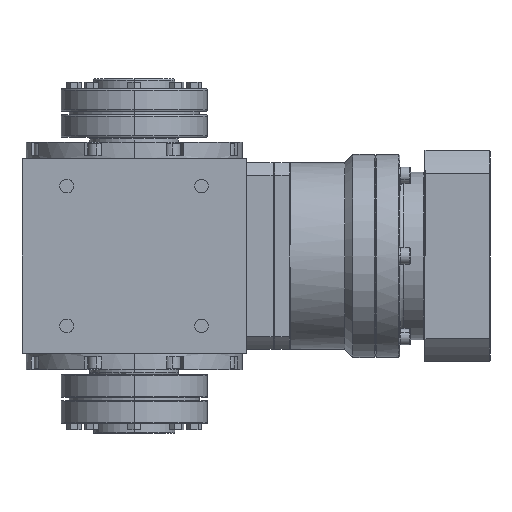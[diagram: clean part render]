
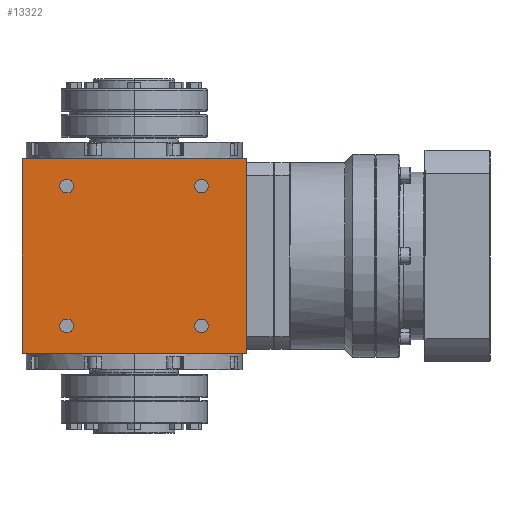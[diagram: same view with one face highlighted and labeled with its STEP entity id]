
A CAD part, left-side view. The second image highlights one B-rep face of the part: STEP entity #13322.
In plain terms, the highlighted planar face has unit normal (-1, 0, 0).
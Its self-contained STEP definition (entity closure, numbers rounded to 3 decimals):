
#5 = EDGE_LOOP ( 'NONE', ( #12496, #20094, #12325, #8017 ) ) ;
#17 = AXIS2_PLACEMENT_3D ( 'NONE', #16425, #13481, #1799 ) ;
#222 = EDGE_CURVE ( 'NONE', #30386, #10881, #6542, .T. ) ;
#235 = CARTESIAN_POINT ( 'NONE',  ( -69., -37.3, 43. ) ) ;
#304 = LINE ( 'NONE', #14953, #21759 ) ;
#317 = AXIS2_PLACEMENT_3D ( 'NONE', #16256, #4375, #25610 ) ;
#333 = FACE_OUTER_BOUND ( 'NONE', #5, .T. ) ;
#1705 = AXIS2_PLACEMENT_3D ( 'NONE', #15162, #6785, #21217 ) ;
#1799 = DIRECTION ( 'NONE',  ( 0., -1., 0. ) ) ;
#2563 = DIRECTION ( 'NONE',  ( 1., 0., 0. ) ) ;
#2656 = CARTESIAN_POINT ( 'NONE',  ( -69., 41.5, 43. ) ) ;
#3011 = LINE ( 'NONE', #26611, #12764 ) ;
#3183 = EDGE_CURVE ( 'NONE', #16970, #14932, #304, .T. ) ;
#3285 = FACE_BOUND ( 'NONE', #37566, .T. ) ;
#3544 = EDGE_CURVE ( 'NONE', #10881, #30386, #9240, .T. ) ;
#4375 = DIRECTION ( 'NONE',  ( 1., 0., 0. ) ) ;
#4450 = CARTESIAN_POINT ( 'NONE',  ( -69., -45.7, 43. ) ) ;
#4749 = DIRECTION ( 'NONE',  ( 0., -1., 0. ) ) ;
#5554 = DIRECTION ( 'NONE',  ( 1., 0., 0. ) ) ;
#5625 = CIRCLE ( 'NONE', #31779, 4.2 ) ;
#5699 = EDGE_LOOP ( 'NONE', ( #26540, #10550 ) ) ;
#5743 = CARTESIAN_POINT ( 'NONE',  ( -69., 41.5, -43. ) ) ;
#6091 = VERTEX_POINT ( 'NONE', #33113 ) ;
#6216 = FACE_BOUND ( 'NONE', #18913, .T. ) ;
#6542 = CIRCLE ( 'NONE', #317, 4.2 ) ;
#6785 = DIRECTION ( 'NONE',  ( -1., 0., 0. ) ) ;
#6910 = EDGE_CURVE ( 'NONE', #20321, #6091, #20396, .T. ) ;
#7246 = DIRECTION ( 'NONE',  ( 0., -1., 0. ) ) ;
#7362 = VECTOR ( 'NONE', #4749, 1000. ) ;
#7815 = CIRCLE ( 'NONE', #10293, 4.2 ) ;
#8017 = ORIENTED_EDGE ( 'NONE', *, *, #32305, .T. ) ;
#9240 = CIRCLE ( 'NONE', #17920, 4.2 ) ;
#9339 = FACE_BOUND ( 'NONE', #5699, .T. ) ;
#9524 = PLANE ( 'NONE',  #1705 ) ;
#9560 = DIRECTION ( 'NONE',  ( 0., -1., 0. ) ) ;
#9812 = CARTESIAN_POINT ( 'NONE',  ( -69., -69., -60. ) ) ;
#10293 = AXIS2_PLACEMENT_3D ( 'NONE', #19078, #30450, #9560 ) ;
#10550 = ORIENTED_EDGE ( 'NONE', *, *, #28093, .T. ) ;
#10638 = CARTESIAN_POINT ( 'NONE',  ( -69., 69., -60. ) ) ;
#10881 = VERTEX_POINT ( 'NONE', #18794 ) ;
#12232 = VERTEX_POINT ( 'NONE', #10638 ) ;
#12291 = DIRECTION ( 'NONE',  ( 0., 1., 0. ) ) ;
#12325 = ORIENTED_EDGE ( 'NONE', *, *, #20137, .T. ) ;
#12352 = CARTESIAN_POINT ( 'NONE',  ( -69., -37.3, -43. ) ) ;
#12373 = ORIENTED_EDGE ( 'NONE', *, *, #34958, .T. ) ;
#12440 = VECTOR ( 'NONE', #12291, 1000. ) ;
#12482 = CARTESIAN_POINT ( 'NONE',  ( -69., 69., 60. ) ) ;
#12496 = ORIENTED_EDGE ( 'NONE', *, *, #3183, .T. ) ;
#12498 = EDGE_CURVE ( 'NONE', #6091, #20321, #14107, .T. ) ;
#12764 = VECTOR ( 'NONE', #38530, 1000. ) ;
#13322 = ADVANCED_FACE ( 'NONE', ( #9339, #6216, #33527, #3285, #333 ), #9524, .T. ) ;
#13481 = DIRECTION ( 'NONE',  ( 1., 0., 0. ) ) ;
#13761 = CARTESIAN_POINT ( 'NONE',  ( -69., -69., 60. ) ) ;
#14028 = VERTEX_POINT ( 'NONE', #36220 ) ;
#14107 = CIRCLE ( 'NONE', #24120, 4.2 ) ;
#14319 = CIRCLE ( 'NONE', #17, 4.2 ) ;
#14932 = VERTEX_POINT ( 'NONE', #13761 ) ;
#14953 = CARTESIAN_POINT ( 'NONE',  ( -69., -69., -60. ) ) ;
#15162 = CARTESIAN_POINT ( 'NONE',  ( -69., 69., -60. ) ) ;
#15218 = DIRECTION ( 'NONE',  ( 0., -1., 0. ) ) ;
#15557 = VERTEX_POINT ( 'NONE', #20343 ) ;
#16031 = DIRECTION ( 'NONE',  ( 1., 0., 0. ) ) ;
#16137 = EDGE_CURVE ( 'NONE', #14932, #20156, #30467, .T. ) ;
#16256 = CARTESIAN_POINT ( 'NONE',  ( -69., 41.5, -43. ) ) ;
#16425 = CARTESIAN_POINT ( 'NONE',  ( -69., 41.5, 43. ) ) ;
#16556 = AXIS2_PLACEMENT_3D ( 'NONE', #33014, #2563, #15218 ) ;
#16712 = ORIENTED_EDGE ( 'NONE', *, *, #18819, .T. ) ;
#16970 = VERTEX_POINT ( 'NONE', #9812 ) ;
#17920 = AXIS2_PLACEMENT_3D ( 'NONE', #5743, #5554, #32667 ) ;
#18794 = CARTESIAN_POINT ( 'NONE',  ( -69., 37.3, -43. ) ) ;
#18819 = EDGE_CURVE ( 'NONE', #15557, #14028, #20439, .T. ) ;
#18913 = EDGE_LOOP ( 'NONE', ( #38108, #23992 ) ) ;
#19078 = CARTESIAN_POINT ( 'NONE',  ( -69., -41.5, 43. ) ) ;
#20094 = ORIENTED_EDGE ( 'NONE', *, *, #16137, .T. ) ;
#20137 = EDGE_CURVE ( 'NONE', #20156, #12232, #3011, .T. ) ;
#20156 = VERTEX_POINT ( 'NONE', #35597 ) ;
#20211 = CARTESIAN_POINT ( 'NONE',  ( -69., 45.7, -43. ) ) ;
#20321 = VERTEX_POINT ( 'NONE', #12352 ) ;
#20343 = CARTESIAN_POINT ( 'NONE',  ( -69., 37.3, 43. ) ) ;
#20396 = CIRCLE ( 'NONE', #16556, 4.2 ) ;
#20439 = CIRCLE ( 'NONE', #25442, 4.2 ) ;
#20979 = DIRECTION ( 'NONE',  ( 0., -1., 0. ) ) ;
#21217 = DIRECTION ( 'NONE',  ( 0., 0., 1. ) ) ;
#21232 = EDGE_LOOP ( 'NONE', ( #26937, #36087 ) ) ;
#21482 = CARTESIAN_POINT ( 'NONE',  ( -69., -41.5, -43. ) ) ;
#21759 = VECTOR ( 'NONE', #29409, 1000. ) ;
#22306 = CARTESIAN_POINT ( 'NONE',  ( -69., 69., -60. ) ) ;
#22668 = LINE ( 'NONE', #22306, #7362 ) ;
#23992 = ORIENTED_EDGE ( 'NONE', *, *, #6910, .T. ) ;
#24120 = AXIS2_PLACEMENT_3D ( 'NONE', #21482, #24821, #7246 ) ;
#24257 = EDGE_CURVE ( 'NONE', #37530, #36681, #7815, .T. ) ;
#24821 = DIRECTION ( 'NONE',  ( 1., 0., 0. ) ) ;
#25442 = AXIS2_PLACEMENT_3D ( 'NONE', #2656, #32915, #20979 ) ;
#25610 = DIRECTION ( 'NONE',  ( 0., -1., 0. ) ) ;
#26540 = ORIENTED_EDGE ( 'NONE', *, *, #24257, .T. ) ;
#26611 = CARTESIAN_POINT ( 'NONE',  ( -69., 69., -60. ) ) ;
#26937 = ORIENTED_EDGE ( 'NONE', *, *, #3544, .T. ) ;
#27956 = DIRECTION ( 'NONE',  ( 0., -1., 0. ) ) ;
#28093 = EDGE_CURVE ( 'NONE', #36681, #37530, #5625, .T. ) ;
#29409 = DIRECTION ( 'NONE',  ( 0., 0., 1. ) ) ;
#30386 = VERTEX_POINT ( 'NONE', #20211 ) ;
#30450 = DIRECTION ( 'NONE',  ( 1., 0., 0. ) ) ;
#30467 = LINE ( 'NONE', #12482, #12440 ) ;
#31779 = AXIS2_PLACEMENT_3D ( 'NONE', #37313, #16031, #27956 ) ;
#32305 = EDGE_CURVE ( 'NONE', #12232, #16970, #22668, .T. ) ;
#32667 = DIRECTION ( 'NONE',  ( 0., -1., 0. ) ) ;
#32915 = DIRECTION ( 'NONE',  ( 1., 0., 0. ) ) ;
#33014 = CARTESIAN_POINT ( 'NONE',  ( -69., -41.5, -43. ) ) ;
#33113 = CARTESIAN_POINT ( 'NONE',  ( -69., -45.7, -43. ) ) ;
#33527 = FACE_BOUND ( 'NONE', #21232, .T. ) ;
#34958 = EDGE_CURVE ( 'NONE', #14028, #15557, #14319, .T. ) ;
#35597 = CARTESIAN_POINT ( 'NONE',  ( -69., 69., 60. ) ) ;
#36087 = ORIENTED_EDGE ( 'NONE', *, *, #222, .T. ) ;
#36220 = CARTESIAN_POINT ( 'NONE',  ( -69., 45.7, 43. ) ) ;
#36681 = VERTEX_POINT ( 'NONE', #235 ) ;
#37313 = CARTESIAN_POINT ( 'NONE',  ( -69., -41.5, 43. ) ) ;
#37530 = VERTEX_POINT ( 'NONE', #4450 ) ;
#37566 = EDGE_LOOP ( 'NONE', ( #16712, #12373 ) ) ;
#38108 = ORIENTED_EDGE ( 'NONE', *, *, #12498, .T. ) ;
#38530 = DIRECTION ( 'NONE',  ( 0., 0., -1. ) ) ;
